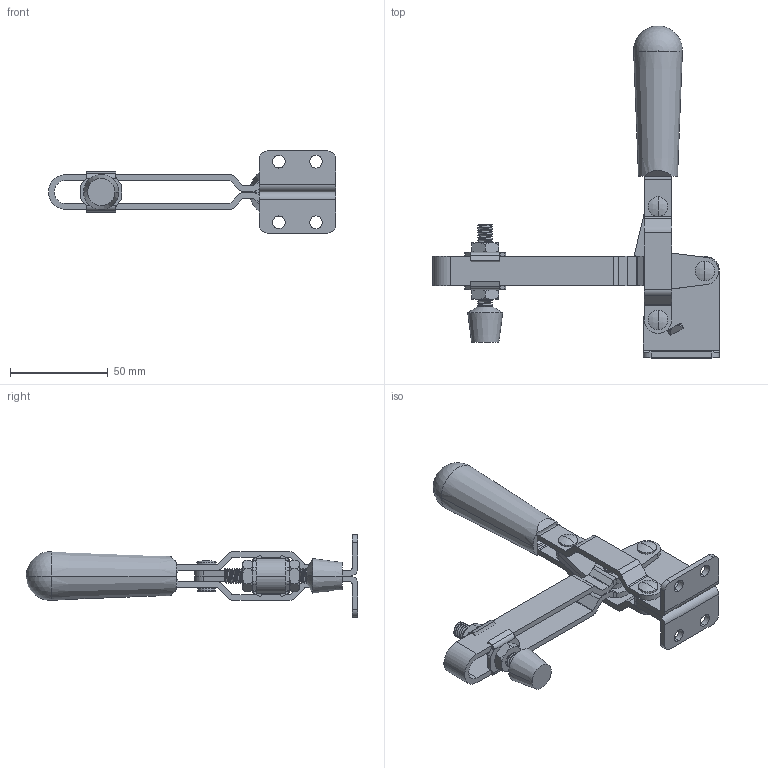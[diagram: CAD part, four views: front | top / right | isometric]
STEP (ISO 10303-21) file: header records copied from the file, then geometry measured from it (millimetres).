
FILE_DESCRIPTION (( 'STEP AP203' ), '1' );
FILE_NAME ('SK3-021H-4.STEP', '2018-07-16T02:00:28', ( 'admin' ), ( 'Microsoft' ), 'SwSTEP 2.0', 'SolidWorks 2015', '' );
FILE_SCHEMA (( 'CONFIG_CONTROL_DESIGN' ));
Length unit declared in the file: millimetre
Products named in the file (11): SK3-021H-4种隊酗; M8 1.25鼠備酗僅5; SK3-021H-4; SK3-021H-4釱赽衵; SK3-021H-4釱赽酘; SK3-021H-4蜇璃2; SK3-021H-4參忒衵; SK3-021H-4參忒; SK3-021H-4蜇璃1; SK3-021H-4蜇璃 2; SK3-021H-4蜇璃 3
Assembly tree (17 placements, depth 2):
  SK3-021H-4
    SK3-021H-4參忒衵  x2
    SK3-021H-4蜇璃1
    SK3-021H-4釱赽衵
    SK3-021H-4釱赽酘
    SK3-021H-4蜇璃2  x2
    SK3-021H-4參忒
    SK3-021H-4蜇璃 2
    SK3-021H-4蜇璃 3  x2
    SK3-021H-4种隊酗  x4
    M8 1.25鼠備酗僅5  x2
Bounding box: 147 x 170 x 42 mm (x, y, z)
Volume: 75872.2 mm3; surface area: 51601.4 mm2
Topology: 17 solids, 17 shells, 504 faces, 1346 edges, 878 vertices
Faces by surface type: cylinder 255, plane 162, cone 38, torus 32, sphere 10, bspline 7
Entity records: 19069 total; most frequent: CARTESIAN_POINT 9499, ORIENTED_EDGE 1816, DIRECTION 1637, EDGE_CURVE 908, AXIS2_PLACEMENT_3D 608, VERTEX_POINT 601, VECTOR 421, LINE 421
